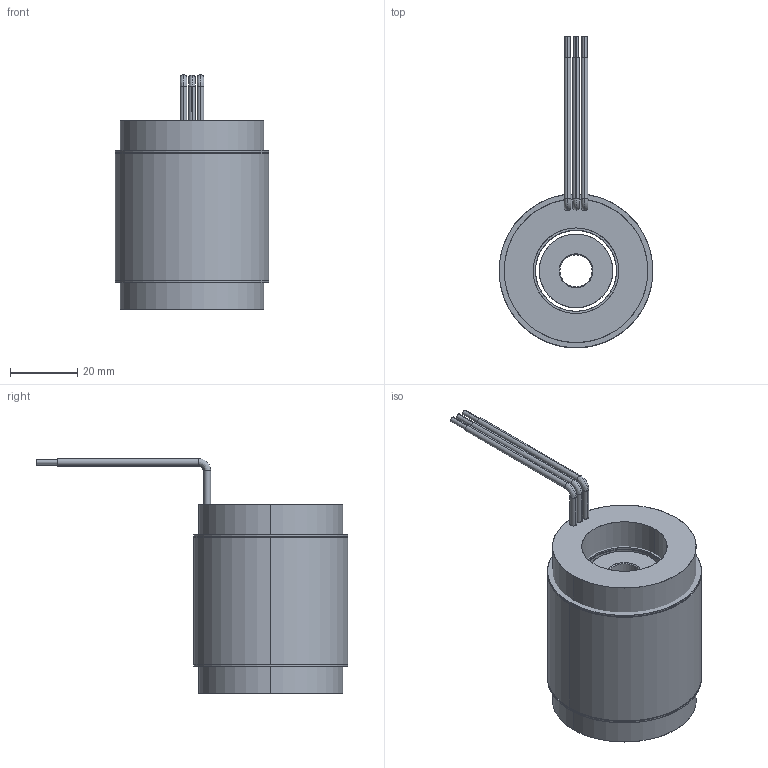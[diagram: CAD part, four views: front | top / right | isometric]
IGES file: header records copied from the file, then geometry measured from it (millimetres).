
Start section: SolidWorks IGES file using analytic representation for surfaces
Global section: file name: \\fs01.aveox.local\user documents\eng\My Documents\STANDARD STATOR ROTOR SETS\Standard rotor and stator set released\1.8 inch stator diameter\6100251-03.IGS; native system: SolidWorks 2016; preprocessor: SolidWorks 2016; author: eng; date: 191111.084702; units: millimetre
Bounding box: 45.72 x 92.54 x 69.72 mm (x, y, z)
Surface area: 39795 mm2 (no closed solid volume)
Topology: 0 solids, 0 shells, 76 faces, 1792 edges, 1792 vertices
Faces by surface type: revolution 50, bspline 26
